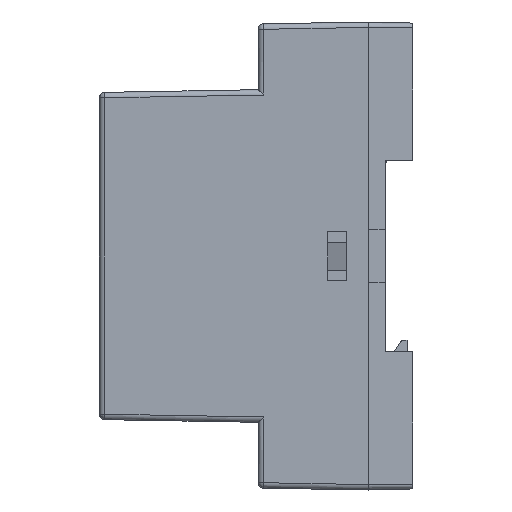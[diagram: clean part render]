
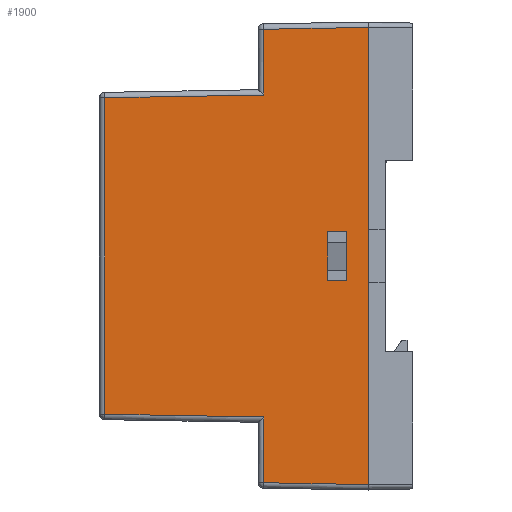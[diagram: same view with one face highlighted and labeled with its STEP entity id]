
A CAD part, left-side view. The second image highlights one B-rep face of the part: STEP entity #1900.
In plain terms, the highlighted planar face has unit normal (-1, 0.009, 0).
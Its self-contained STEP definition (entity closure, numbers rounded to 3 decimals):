
#497 = EDGE_CURVE ( 'NONE', #15792, #7141, #4666, .T. ) ;
#703 = ORIENTED_EDGE ( 'NONE', *, *, #9005, .T. ) ;
#1321 = CARTESIAN_POINT ( 'NONE',  ( -52.381, 19.309, 29.617 ) ) ;
#1353 = LINE ( 'NONE', #2672, #3007 ) ;
#1689 = VECTOR ( 'NONE', #15487, 1000. ) ;
#1711 = CARTESIAN_POINT ( 'NONE',  ( -52.515, 4., -4.5 ) ) ;
#1784 = CARTESIAN_POINT ( 'NONE',  ( -52.552, -0.228, 29.958 ) ) ;
#1891 = DIRECTION ( 'NONE',  ( 0., 0., 1. ) ) ;
#1893 = DIRECTION ( 'NONE',  ( -0.009, -1., -0.017 ) ) ;
#1900 = ADVANCED_FACE ( 'NONE', ( #2881, #4200 ), #7960, .T. ) ;
#2049 = CARTESIAN_POINT ( 'NONE',  ( -52.485, 7.5, -4.5 ) ) ;
#2097 = LINE ( 'NONE', #15768, #6752 ) ;
#2288 = CARTESIAN_POINT ( 'NONE',  ( -52.55, 0., 4.5 ) ) ;
#2439 = VECTOR ( 'NONE', #15318, 1000. ) ;
#2461 = ORIENTED_EDGE ( 'NONE', *, *, #13016, .F. ) ;
#2672 = CARTESIAN_POINT ( 'NONE',  ( -52.55, 0., 43.05 ) ) ;
#2872 = VECTOR ( 'NONE', #2999, 1000. ) ;
#2881 = FACE_BOUND ( 'NONE', #14189, .T. ) ;
#2999 = DIRECTION ( 'NONE',  ( 0., 0., -1. ) ) ;
#3001 = VERTEX_POINT ( 'NONE', #8429 ) ;
#3007 = VECTOR ( 'NONE', #6386, 1000. ) ;
#3280 = DIRECTION ( 'NONE',  ( 0.009, 1., -0.017 ) ) ;
#3441 = DIRECTION ( 'NONE',  ( 0.009, 1., 0. ) ) ;
#3602 = EDGE_CURVE ( 'NONE', #3001, #14320, #2097, .T. ) ;
#3617 = EDGE_CURVE ( 'NONE', #11082, #15792, #13181, .T. ) ;
#3892 = LINE ( 'NONE', #8894, #2439 ) ;
#3962 = ORIENTED_EDGE ( 'NONE', *, *, #3617, .T. ) ;
#4200 = FACE_OUTER_BOUND ( 'NONE', #12589, .T. ) ;
#4666 = LINE ( 'NONE', #9670, #9349 ) ;
#4893 = VERTEX_POINT ( 'NONE', #7562 ) ;
#5102 = DIRECTION ( 'NONE',  ( -1., 0.009, 0. ) ) ;
#5246 = LINE ( 'NONE', #6468, #2872 ) ;
#5305 = EDGE_CURVE ( 'NONE', #8088, #8124, #3892, .T. ) ;
#5506 = EDGE_CURVE ( 'NONE', #13604, #11082, #8707, .T. ) ;
#5811 = DIRECTION ( 'NONE',  ( 0., 0., -1. ) ) ;
#6124 = VERTEX_POINT ( 'NONE', #15807 ) ;
#6125 = EDGE_CURVE ( 'NONE', #7141, #13604, #8145, .T. ) ;
#6386 = DIRECTION ( 'NONE',  ( 0., 0., -1. ) ) ;
#6468 = CARTESIAN_POINT ( 'NONE',  ( -52.381, 19.309, 43.05 ) ) ;
#6498 = DIRECTION ( 'NONE',  ( -0.009, -1., 0. ) ) ;
#6666 = ORIENTED_EDGE ( 'NONE', *, *, #6125, .T. ) ;
#6752 = VECTOR ( 'NONE', #5811, 1000. ) ;
#6762 = VECTOR ( 'NONE', #1893, 1000. ) ;
#6870 = VERTEX_POINT ( 'NONE', #1321 ) ;
#7035 = ORIENTED_EDGE ( 'NONE', *, *, #8686, .T. ) ;
#7141 = VERTEX_POINT ( 'NONE', #2049 ) ;
#7454 = VECTOR ( 'NONE', #13717, 1000. ) ;
#7562 = CARTESIAN_POINT ( 'NONE',  ( -52.55, 0., 42.05 ) ) ;
#7799 = CARTESIAN_POINT ( 'NONE',  ( -52.55, 0., 43.05 ) ) ;
#7960 = PLANE ( 'NONE',  #11485 ) ;
#8088 = VERTEX_POINT ( 'NONE', #8992 ) ;
#8124 = VERTEX_POINT ( 'NONE', #15012 ) ;
#8145 = LINE ( 'NONE', #9547, #12953 ) ;
#8149 = LINE ( 'NONE', #12006, #6762 ) ;
#8296 = LINE ( 'NONE', #1784, #12906 ) ;
#8360 = ORIENTED_EDGE ( 'NONE', *, *, #497, .T. ) ;
#8429 = CARTESIAN_POINT ( 'NONE',  ( -52.127, 48.509, 29.108 ) ) ;
#8567 = ORIENTED_EDGE ( 'NONE', *, *, #5506, .T. ) ;
#8619 = VERTEX_POINT ( 'NONE', #9610 ) ;
#8686 = EDGE_CURVE ( 'NONE', #6870, #3001, #8296, .T. ) ;
#8707 = LINE ( 'NONE', #2288, #7454 ) ;
#8816 = ORIENTED_EDGE ( 'NONE', *, *, #5305, .T. ) ;
#8894 = CARTESIAN_POINT ( 'NONE',  ( -52.381, 19.309, 43.05 ) ) ;
#8992 = CARTESIAN_POINT ( 'NONE',  ( -52.381, 19.309, -29.617 ) ) ;
#9005 = EDGE_CURVE ( 'NONE', #4893, #6124, #11593, .T. ) ;
#9245 = ORIENTED_EDGE ( 'NONE', *, *, #3602, .T. ) ;
#9349 = VECTOR ( 'NONE', #3441, 1000. ) ;
#9547 = CARTESIAN_POINT ( 'NONE',  ( -52.485, 7.5, 43.05 ) ) ;
#9610 = CARTESIAN_POINT ( 'NONE',  ( -52.55, 0., -42.05 ) ) ;
#9670 = CARTESIAN_POINT ( 'NONE',  ( -52.55, 0., -4.5 ) ) ;
#9878 = ORIENTED_EDGE ( 'NONE', *, *, #10064, .T. ) ;
#10064 = EDGE_CURVE ( 'NONE', #8124, #8619, #8149, .T. ) ;
#10672 = LINE ( 'NONE', #10999, #13116 ) ;
#10756 = DIRECTION ( 'NONE',  ( -0.009, -1., -0.017 ) ) ;
#10999 = CARTESIAN_POINT ( 'NONE',  ( -52.539, 1.274, -29.932 ) ) ;
#11082 = VERTEX_POINT ( 'NONE', #15752 ) ;
#11190 = ORIENTED_EDGE ( 'NONE', *, *, #13826, .T. ) ;
#11485 = AXIS2_PLACEMENT_3D ( 'NONE', #7799, #5102, #6498 ) ;
#11593 = LINE ( 'NONE', #12900, #1689 ) ;
#12006 = CARTESIAN_POINT ( 'NONE',  ( -52.537, 1.485, -42.024 ) ) ;
#12126 = DIRECTION ( 'NONE',  ( 0., 0., -1. ) ) ;
#12177 = ORIENTED_EDGE ( 'NONE', *, *, #15030, .T. ) ;
#12466 = CARTESIAN_POINT ( 'NONE',  ( -52.127, 48.509, -29.108 ) ) ;
#12589 = EDGE_LOOP ( 'NONE', ( #8816, #9878, #2461, #703, #11190, #7035, #9245, #12177 ) ) ;
#12900 = CARTESIAN_POINT ( 'NONE',  ( -52.55, -0.017, 42.05 ) ) ;
#12906 = VECTOR ( 'NONE', #3280, 1000. ) ;
#12953 = VECTOR ( 'NONE', #1891, 1000. ) ;
#13016 = EDGE_CURVE ( 'NONE', #4893, #8619, #1353, .T. ) ;
#13093 = CARTESIAN_POINT ( 'NONE',  ( -52.485, 7.5, 4.5 ) ) ;
#13116 = VECTOR ( 'NONE', #10756, 1000. ) ;
#13181 = LINE ( 'NONE', #15847, #13326 ) ;
#13326 = VECTOR ( 'NONE', #12126, 1000. ) ;
#13604 = VERTEX_POINT ( 'NONE', #13093 ) ;
#13717 = DIRECTION ( 'NONE',  ( -0.009, -1., 0. ) ) ;
#13826 = EDGE_CURVE ( 'NONE', #6124, #6870, #5246, .T. ) ;
#14189 = EDGE_LOOP ( 'NONE', ( #3962, #8360, #6666, #8567 ) ) ;
#14320 = VERTEX_POINT ( 'NONE', #12466 ) ;
#15012 = CARTESIAN_POINT ( 'NONE',  ( -52.381, 19.309, -41.713 ) ) ;
#15030 = EDGE_CURVE ( 'NONE', #14320, #8088, #10672, .T. ) ;
#15318 = DIRECTION ( 'NONE',  ( 0., 0., -1. ) ) ;
#15487 = DIRECTION ( 'NONE',  ( 0.009, 1., -0.017 ) ) ;
#15752 = CARTESIAN_POINT ( 'NONE',  ( -52.515, 4., 4.5 ) ) ;
#15768 = CARTESIAN_POINT ( 'NONE',  ( -52.127, 48.509, 43.05 ) ) ;
#15792 = VERTEX_POINT ( 'NONE', #1711 ) ;
#15807 = CARTESIAN_POINT ( 'NONE',  ( -52.381, 19.309, 41.713 ) ) ;
#15847 = CARTESIAN_POINT ( 'NONE',  ( -52.515, 4., 43.05 ) ) ;
